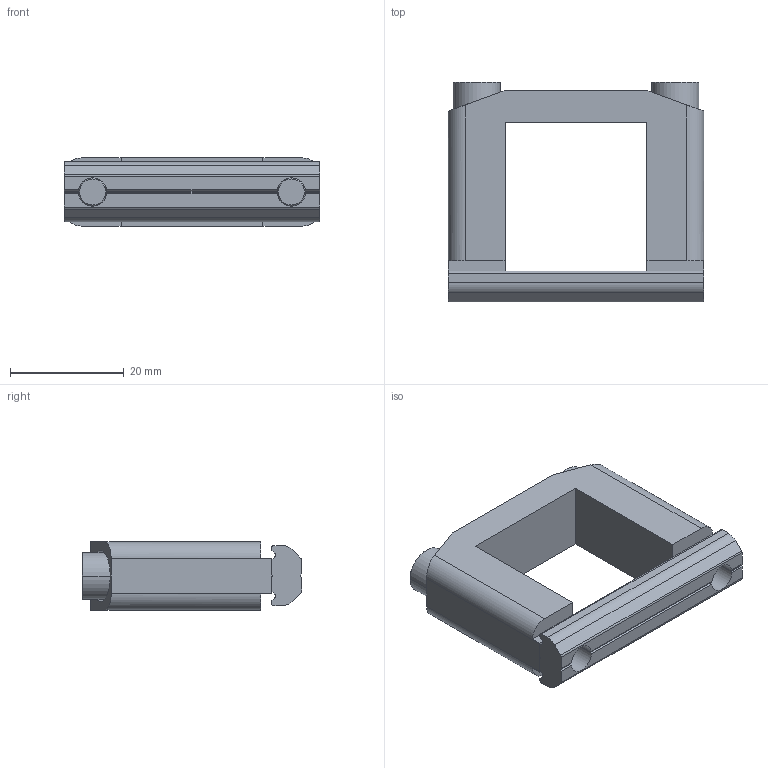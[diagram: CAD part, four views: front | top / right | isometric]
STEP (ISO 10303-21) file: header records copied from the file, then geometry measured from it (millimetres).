
FILE_DESCRIPTION (( 'STEP AP214' ), '1' );
FILE_NAME ('SMBB-2525.STEP', '2019-10-31T03:44:00', ( '微软用户' ), ( '微软中国' ), 'SwSTEP 2.0', 'SolidWorks 2016', '' );
FILE_SCHEMA (( 'AUTOMOTIVE_DESIGN' ));
Length unit declared in the file: millimetre
Products named in the file (5): PTS-M5; PTN-M5P35; PTC-M5L30; SMBB-2525
Assembly tree (6 placements, depth 2):
  SMBB-2525
    SMBB-2525
    PTC-M5L30  x2
    PTN-M5P35
    PTS-M5  x2
Bounding box: 45 x 38.65 x 12 mm (x, y, z)
Volume: 10674.6 mm3; surface area: 7921.2 mm2
Topology: 6 solids, 6 shells, 454 faces, 1312 edges, 868 vertices
Faces by surface type: plane 392, cylinder 50, cone 12
Entity records: 9234 total; most frequent: CARTESIAN_POINT 1773, ORIENTED_EDGE 1556, DIRECTION 1542, EDGE_CURVE 778, AXIS2_PLACEMENT_3D 519, VERTEX_POINT 514, VECTOR 504, LINE 504
